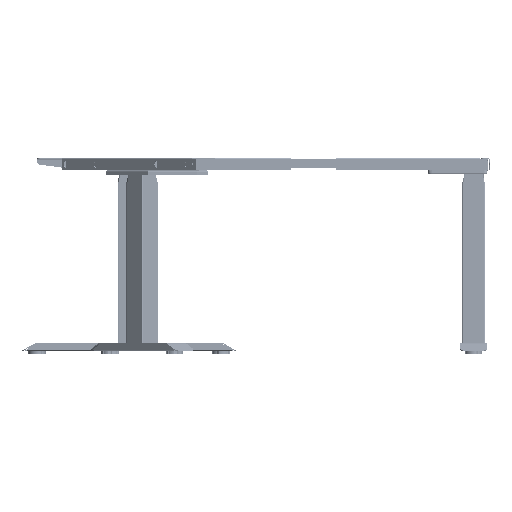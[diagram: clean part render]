
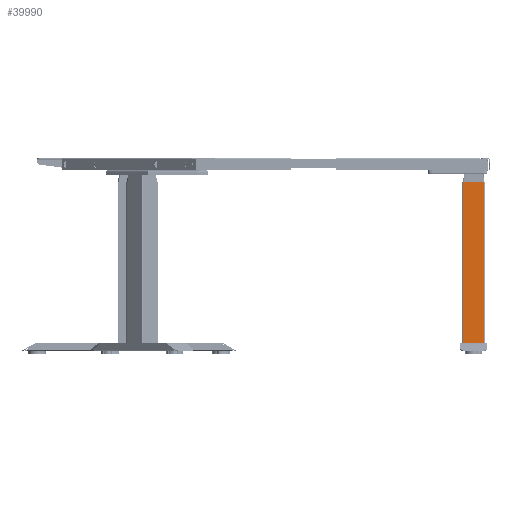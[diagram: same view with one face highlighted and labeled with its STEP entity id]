
A CAD part, left-side view. The second image highlights one B-rep face of the part: STEP entity #39990.
In plain terms, the highlighted planar face has unit normal (-1, 0, 0).
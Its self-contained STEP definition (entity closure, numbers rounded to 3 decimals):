
#39929=CARTESIAN_POINT('Vertex',(-37.5,34.5,526.)) ;
#39945=CARTESIAN_POINT('Vertex',(-37.5,34.5,0.)) ;
#39948=CARTESIAN_POINT('Line Origine',(-37.5,34.5,263.)) ;
#39960=CARTESIAN_POINT('Axis2P3D Location',(-37.5,-37.5,0.)) ;
#39965=CARTESIAN_POINT('Line Origine',(-37.5,-34.5,263.)) ;
#39969=CARTESIAN_POINT('Vertex',(-37.5,-34.5,0.)) ;
#39971=CARTESIAN_POINT('Vertex',(-37.5,-34.5,526.)) ;
#39974=CARTESIAN_POINT('Line Origine',(-37.5,0.,526.)) ;
#39979=CARTESIAN_POINT('Line Origine',(-37.5,0.,0.)) ;
#39949=DIRECTION('Vector Direction',(0.,0.,1.)) ;
#39961=DIRECTION('Axis2P3D Direction',(1.,0.,0.)) ;
#39962=DIRECTION('Axis2P3D XDirection',(0.,1.,0.)) ;
#39966=DIRECTION('Vector Direction',(0.,0.,1.)) ;
#39975=DIRECTION('Vector Direction',(0.,1.,0.)) ;
#39980=DIRECTION('Vector Direction',(0.,1.,0.)) ;
#39963=AXIS2_PLACEMENT_3D('Plane Axis2P3D',#39960,#39961,#39962) ;
#39985=ORIENTED_EDGE('',*,*,#39973,.T.) ;
#39986=ORIENTED_EDGE('',*,*,#39978,.F.) ;
#39987=ORIENTED_EDGE('',*,*,#39952,.F.) ;
#39988=ORIENTED_EDGE('',*,*,#39983,.T.) ;
#39950=VECTOR('Line Direction',#39949,1.) ;
#39967=VECTOR('Line Direction',#39966,1.) ;
#39976=VECTOR('Line Direction',#39975,1.) ;
#39981=VECTOR('Line Direction',#39980,1.) ;
#39990=ADVANCED_FACE('\X2\96F64EF651E04F554F53\X0\',(#39989),#39964,.F.) ;
#39952=EDGE_CURVE('',#39946,#39930,#39951,.T.) ;
#39973=EDGE_CURVE('',#39970,#39972,#39968,.T.) ;
#39978=EDGE_CURVE('',#39930,#39972,#39977,.F.) ;
#39983=EDGE_CURVE('',#39946,#39970,#39982,.F.) ;
#39984=EDGE_LOOP('',(#39985,#39986,#39987,#39988)) ;
#39989=FACE_OUTER_BOUND('',#39984,.T.) ;
#39951=LINE('Line',#39948,#39950) ;
#39968=LINE('Line',#39965,#39967) ;
#39977=LINE('Line',#39974,#39976) ;
#39982=LINE('Line',#39979,#39981) ;
#39964=PLANE('',#39963) ;
#39930=VERTEX_POINT('',#39929) ;
#39946=VERTEX_POINT('',#39945) ;
#39970=VERTEX_POINT('',#39969) ;
#39972=VERTEX_POINT('',#39971) ;
